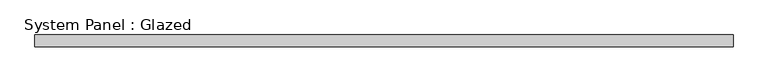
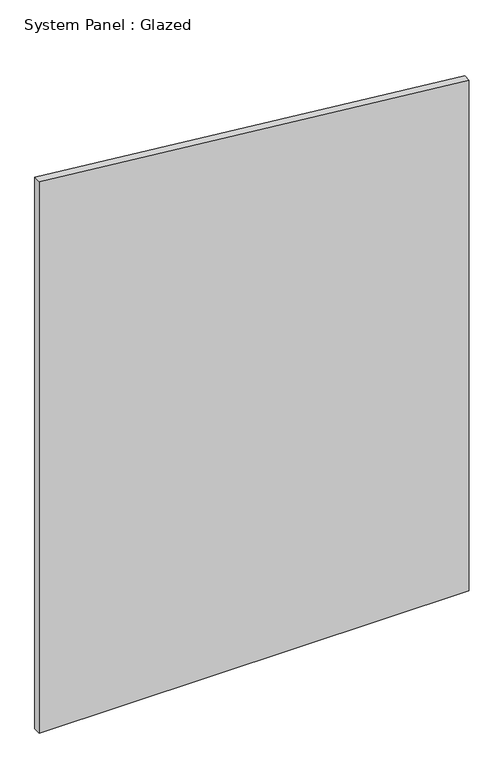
"""IFC4 building model written with IfcOpenShell, lengths in millimetres: plate geometry, System Panel : Glazed."""

from ifc_helpers import new_model, si_unit, frame, origin, place, context, project, spatial, polyline, outline, extrude, source, transform, mapped, element, save


def system_panel_glazed_9956cfd2(model_context):
    return source(origin(), model_context, "Body", "SweptSolid", [
        extrude(outline(polyline([(0.0, -735.8695652), (0.0, 735.8695652), (1846.5023281, 735.8695652), (1994.4853068, -735.8695652), (0.0, -735.8695652)])), frame((0.0, 24.5, 0.0), z_axis=(0.0, 1.0, 0.0), x_axis=(0.0, 0.0, 1.0)), (0.0, 0.0, 1.0), 25.0),
    ])


if __name__ == "__main__":
    model = new_model("IFC4")
    model_context = context("Model", 3, world=origin())
    ifc_project = project(units=[si_unit("LENGTHUNIT", "METRE", prefix="MILLI")], contexts=[model_context])
    site = spatial("IfcSite", under=ifc_project)
    building = spatial("IfcBuilding", under=site)
    placement = place(None, origin())
    system_panel_glazed_shape = system_panel_glazed_9956cfd2(model_context)
    element("IfcPlate", 1, ObjectType="System Panel : Glazed", at=placement, inside=building, context=model_context, shape_type="MappedRepresentation", body=[
        mapped(system_panel_glazed_shape, transform((0.0, 0.0, 0.0), x_axis=(1.0, 0.0, 0.0), y_axis=(0.0, 1.0, 0.0), z_axis=(0.0, 0.0, 1.0))),
    ])
    save(model, "model.ifc")
